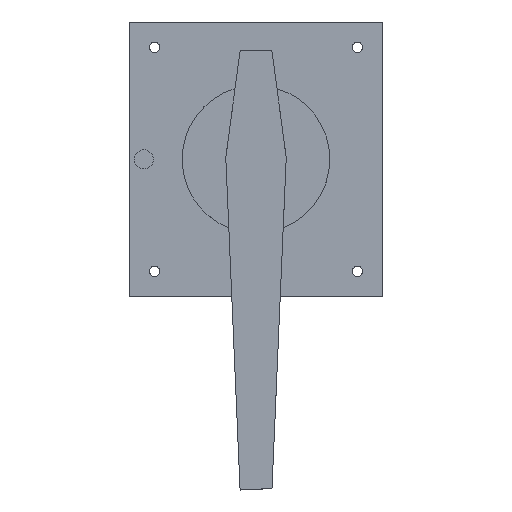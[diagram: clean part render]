
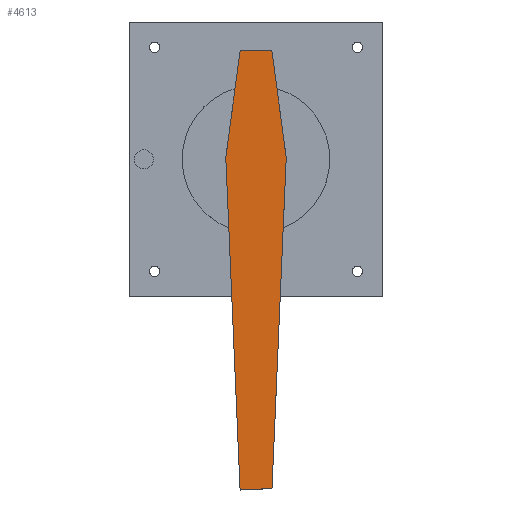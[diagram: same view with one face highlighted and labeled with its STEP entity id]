
A CAD part, top view. The second image highlights one B-rep face of the part: STEP entity #4613.
In plain terms, the highlighted planar face has unit normal (0, 0, 1).
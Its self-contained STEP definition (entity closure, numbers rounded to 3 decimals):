
#41 = LINE ( 'NONE', #1471, #4388 ) ;
#270 = CARTESIAN_POINT ( 'NONE',  ( -10.073, -153.48, 192.15 ) ) ;
#426 = CARTESIAN_POINT ( 'NONE',  ( 38., 0., 192.15 ) ) ;
#428 = VERTEX_POINT ( 'NONE', #2003 ) ;
#492 = EDGE_CURVE ( 'NONE', #428, #3262, #3904, .T. ) ;
#499 = CARTESIAN_POINT ( 'NONE',  ( 30.5, 51.4, 192.15 ) ) ;
#557 = EDGE_CURVE ( 'NONE', #3843, #2752, #2962, .T. ) ;
#806 = CARTESIAN_POINT ( 'NONE',  ( 45.541, -155.87, 192.15 ) ) ;
#813 = VECTOR ( 'NONE', #1393, 1000. ) ;
#867 = EDGE_CURVE ( 'NONE', #3784, #3843, #3026, .T. ) ;
#901 = DIRECTION ( 'NONE',  ( -0.133, -0.991, 0. ) ) ;
#932 = CARTESIAN_POINT ( 'NONE',  ( 23.701, 0.78, 192.15 ) ) ;
#1025 = ORIENTED_EDGE ( 'NONE', *, *, #492, .T. ) ;
#1128 = DIRECTION ( 'NONE',  ( 0., 0., -1. ) ) ;
#1131 = CARTESIAN_POINT ( 'NONE',  ( 52.299, 0.78, 192.15 ) ) ;
#1247 = EDGE_CURVE ( 'NONE', #4691, #2297, #1689, .T. ) ;
#1249 = DIRECTION ( 'NONE',  ( 0.999, 0.043, 0. ) ) ;
#1280 = VECTOR ( 'NONE', #2638, 1000. ) ;
#1393 = DIRECTION ( 'NONE',  ( 0.999, -0.043, 0. ) ) ;
#1394 = DIRECTION ( 'NONE',  ( -0.133, 0.991, 0. ) ) ;
#1446 = EDGE_LOOP ( 'NONE', ( #1614, #3666, #1746, #3659, #1025, #4042, #2160, #1571 ) ) ;
#1471 = CARTESIAN_POINT ( 'NONE',  ( 52.299, 0.78, 192.15 ) ) ;
#1500 = LINE ( 'NONE', #2771, #1787 ) ;
#1502 = VERTEX_POINT ( 'NONE', #1131 ) ;
#1571 = ORIENTED_EDGE ( 'NONE', *, *, #557, .T. ) ;
#1614 = ORIENTED_EDGE ( 'NONE', *, *, #2362, .T. ) ;
#1623 = CARTESIAN_POINT ( 'NONE',  ( 23.701, 0.78, 192.15 ) ) ;
#1689 = LINE ( 'NONE', #270, #813 ) ;
#1715 = EDGE_CURVE ( 'NONE', #2297, #1502, #41, .T. ) ;
#1745 = VECTOR ( 'NONE', #1394, 1000. ) ;
#1746 = ORIENTED_EDGE ( 'NONE', *, *, #1715, .T. ) ;
#1787 = VECTOR ( 'NONE', #3862, 1000. ) ;
#2003 = CARTESIAN_POINT ( 'NONE',  ( 45.5, 51.4, 192.15 ) ) ;
#2024 = VECTOR ( 'NONE', #1249, 1000. ) ;
#2160 = ORIENTED_EDGE ( 'NONE', *, *, #867, .T. ) ;
#2297 = VERTEX_POINT ( 'NONE', #4227 ) ;
#2362 = EDGE_CURVE ( 'NONE', #2752, #4691, #1500, .T. ) ;
#2402 = EDGE_CURVE ( 'NONE', #3262, #3784, #3893, .T. ) ;
#2471 = CARTESIAN_POINT ( 'NONE',  ( 45.5, 51.4, 192.15 ) ) ;
#2638 = DIRECTION ( 'NONE',  ( 0.043, -0.999, 0. ) ) ;
#2752 = VERTEX_POINT ( 'NONE', #4857 ) ;
#2771 = CARTESIAN_POINT ( 'NONE',  ( 45.541, -153.48, 192.15 ) ) ;
#2882 = AXIS2_PLACEMENT_3D ( 'NONE', #426, #1128, #3793 ) ;
#2962 = LINE ( 'NONE', #3813, #2024 ) ;
#2987 = CARTESIAN_POINT ( 'NONE',  ( 30.5, 51.4, 192.15 ) ) ;
#3026 = LINE ( 'NONE', #3046, #1280 ) ;
#3046 = CARTESIAN_POINT ( 'NONE',  ( 30.459, -156.52, 192.15 ) ) ;
#3095 = VECTOR ( 'NONE', #3493, 1000. ) ;
#3262 = VERTEX_POINT ( 'NONE', #2987 ) ;
#3493 = DIRECTION ( 'NONE',  ( -1., 0., 0. ) ) ;
#3659 = ORIENTED_EDGE ( 'NONE', *, *, #3918, .T. ) ;
#3666 = ORIENTED_EDGE ( 'NONE', *, *, #1247, .T. ) ;
#3784 = VERTEX_POINT ( 'NONE', #932 ) ;
#3793 = DIRECTION ( 'NONE',  ( 1., 0., 0. ) ) ;
#3813 = CARTESIAN_POINT ( 'NONE',  ( 48.001, -155.766, 192.15 ) ) ;
#3829 = VECTOR ( 'NONE', #901, 1000. ) ;
#3843 = VERTEX_POINT ( 'NONE', #3991 ) ;
#3862 = DIRECTION ( 'NONE',  ( 0., 1., 0. ) ) ;
#3893 = LINE ( 'NONE', #1623, #3829 ) ;
#3904 = LINE ( 'NONE', #499, #3095 ) ;
#3918 = EDGE_CURVE ( 'NONE', #1502, #428, #4218, .T. ) ;
#3991 = CARTESIAN_POINT ( 'NONE',  ( 30.459, -156.52, 192.15 ) ) ;
#4042 = ORIENTED_EDGE ( 'NONE', *, *, #2402, .T. ) ;
#4066 = DIRECTION ( 'NONE',  ( 0.043, 0.999, 0. ) ) ;
#4218 = LINE ( 'NONE', #2471, #1745 ) ;
#4227 = CARTESIAN_POINT ( 'NONE',  ( 45.569, -155.871, 192.15 ) ) ;
#4245 = FACE_OUTER_BOUND ( 'NONE', #1446, .T. ) ;
#4388 = VECTOR ( 'NONE', #4066, 1000. ) ;
#4434 = PLANE ( 'NONE',  #2882 ) ;
#4613 = ADVANCED_FACE ( 'NONE', ( #4245 ), #4434, .F. ) ;
#4691 = VERTEX_POINT ( 'NONE', #806 ) ;
#4857 = CARTESIAN_POINT ( 'NONE',  ( 45.541, -155.872, 192.15 ) ) ;
